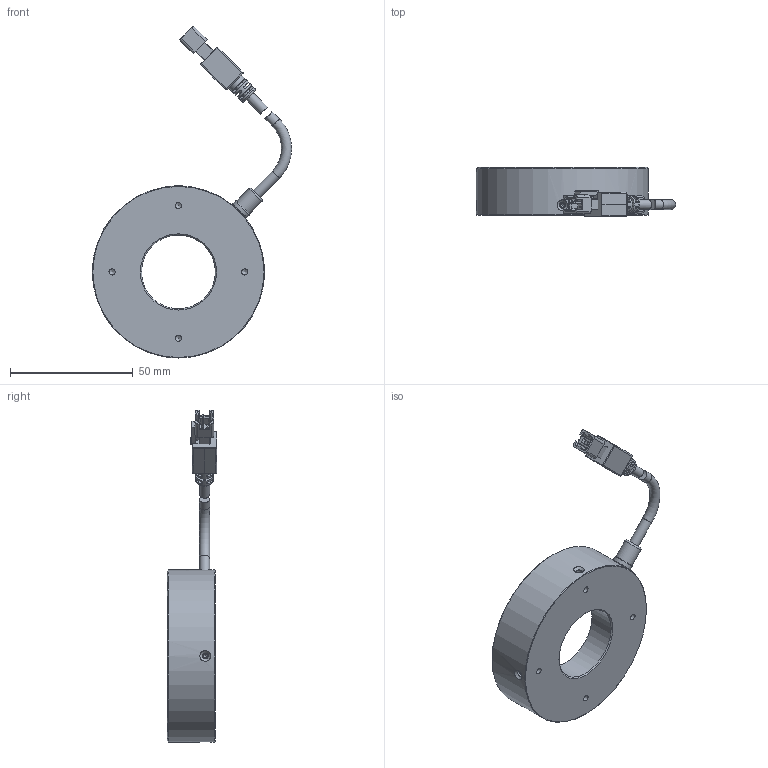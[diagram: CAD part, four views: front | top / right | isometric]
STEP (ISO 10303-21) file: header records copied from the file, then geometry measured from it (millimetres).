
FILE_DESCRIPTION (( 'STEP AP214' ), '1' );
FILE_NAME ('OPT-RI7000-X-V5.0尨砩芞.STEP', '2024-12-12T07:07:48', ( '' ), ( '' ), 'SwSTEP 2.0', 'SolidWorks 2016', '' );
FILE_SCHEMA (( 'AUTOMOTIVE_DESIGN' ));
Length unit declared in the file: millimetre
Products named in the file (1): OPT-RI7000-X-V5.0尨砩芞
Bounding box: 81.02 x 20.2 x 135.04 mm (x, y, z)
Volume: 45904.5 mm3; surface area: 19768.4 mm2
Topology: 7 solids, 7 shells, 350 faces, 904 edges, 569 vertices
Faces by surface type: plane 171, cylinder 116, cone 29, bspline 24, torus 10
Full cylindrical faces by diameter (mm): 1.1 x4, 1.6 x4, 2.4 x4, 2.5 x4, 3.5 x1, 4.1 x4, 5.8 x1, 7.5 x2, 8 x1, 30 x1, 61.8 x1, 70 x1
Entity records: 15185 total; most frequent: CARTESIAN_POINT 3306, ORIENTED_EDGE 1616, DIRECTION 1592, EDGE_CURVE 808, AXIS2_PLACEMENT_3D 549, VERTEX_POINT 541, LINE 494, VECTOR 494
